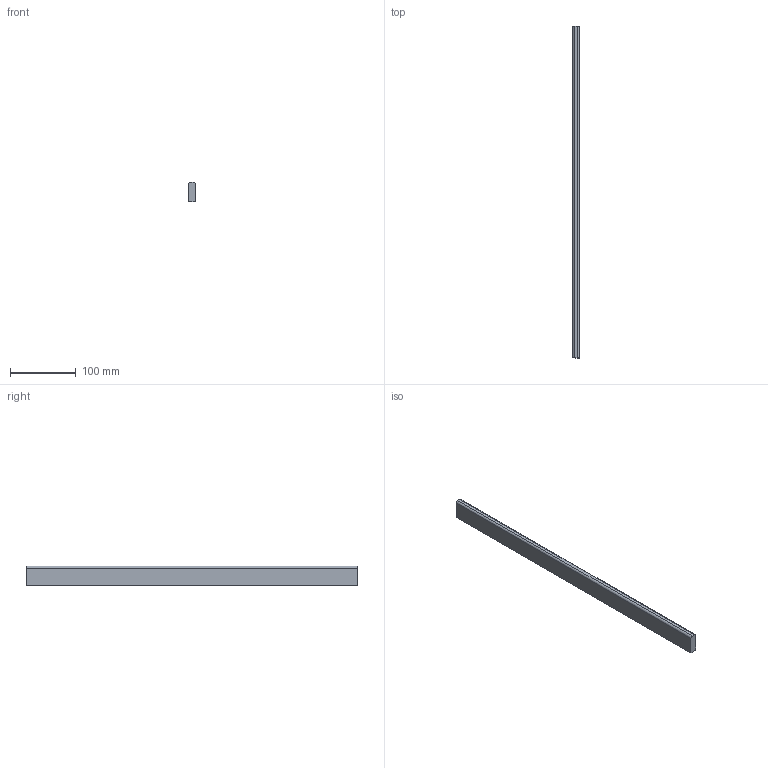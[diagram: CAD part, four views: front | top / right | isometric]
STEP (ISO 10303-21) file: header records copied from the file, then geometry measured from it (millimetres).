
FILE_DESCRIPTION (( 'STEP AP214' ), '1' );
FILE_NAME ('_Seitenreling_S610000200_RL505.step', '2010-09-06T14:51:22', ( 'grass' ), ( '' ), 'SwSTEP 2.0', 'SolidWorks 2010', '' );
FILE_SCHEMA (( 'AUTOMOTIVE_DESIGN' ));
Length unit declared in the file: millimetre
Products named in the file (1): _Seitenreling_S610000200_RL505
Bounding box: 10.5 x 505 x 30 mm (x, y, z)
Volume: 157124.3 mm3; surface area: 40226.8 mm2
Topology: 1 solids, 1 shells, 8 faces, 18 edges, 12 vertices
Faces by surface type: plane 6, cylinder 2
Entity records: 260 total; most frequent: DIRECTION 40, CARTESIAN_POINT 39, ORIENTED_EDGE 36, EDGE_CURVE 18, VECTOR 14, LINE 14, AXIS2_PLACEMENT_3D 13, VERTEX_POINT 12
